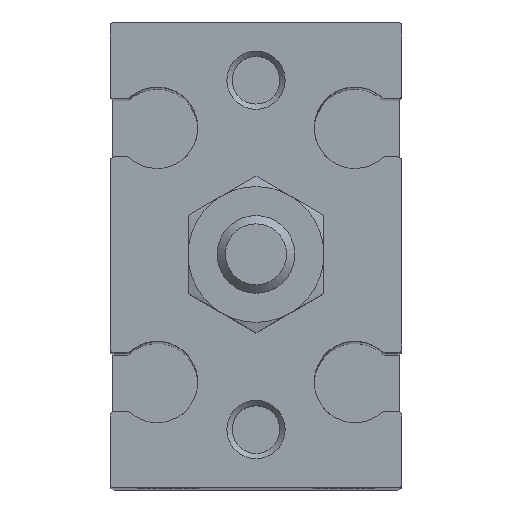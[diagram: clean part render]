
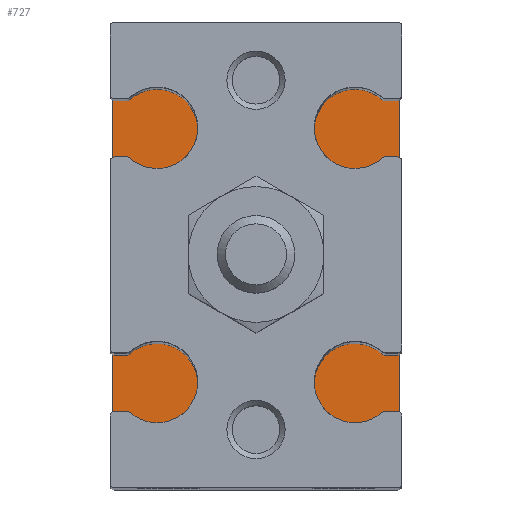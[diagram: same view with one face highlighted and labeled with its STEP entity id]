
A CAD part, top view. The second image highlights one B-rep face of the part: STEP entity #727.
In plain terms, the highlighted planar face has unit normal (0, 0, 1) as drawn and (0, 0, -1) by its records, which use the part's own axes.
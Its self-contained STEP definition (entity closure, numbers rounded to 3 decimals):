
#727 = ADVANCED_FACE( '', ( #1517, #1518, #1519, #1520 ), #1521, .F. );
#1517 = FACE_BOUND( '', #2349, .T. );
#1518 = FACE_BOUND( '', #2350, .T. );
#1519 = FACE_BOUND( '', #2351, .T. );
#1520 = FACE_OUTER_BOUND( '', #2352, .T. );
#1521 = PLANE( '', #2353 );
#2349 = EDGE_LOOP( '', ( #4148 ) );
#2350 = EDGE_LOOP( '', ( #4149 ) );
#2351 = EDGE_LOOP( '', ( #4150 ) );
#2352 = EDGE_LOOP( '', ( #4151, #4152, #4153, #4154 ) );
#2353 = AXIS2_PLACEMENT_3D( '', #4155, #4156, #4157 );
#4148 = ORIENTED_EDGE( '', *, *, #4693, .F. );
#4149 = ORIENTED_EDGE( '', *, *, #5298, .F. );
#4150 = ORIENTED_EDGE( '', *, *, #4944, .T. );
#4151 = ORIENTED_EDGE( '', *, *, #5299, .F. );
#4152 = ORIENTED_EDGE( '', *, *, #4891, .F. );
#4153 = ORIENTED_EDGE( '', *, *, #4731, .F. );
#4154 = ORIENTED_EDGE( '', *, *, #4989, .F. );
#4155 = CARTESIAN_POINT( '', ( 0., 0., -6. ) );
#4156 = DIRECTION( '', ( 0., 0., 1. ) );
#4157 = DIRECTION( '', ( 1., 0., 0. ) );
#4693 = EDGE_CURVE( '', #5554, #5554, #5555, .T. );
#4731 = EDGE_CURVE( '', #5619, #5621, #5622, .T. );
#4891 = EDGE_CURVE( '', #5621, #5892, #5893, .T. );
#4944 = EDGE_CURVE( '', #5969, #5969, #5970, .T. );
#4989 = EDGE_CURVE( '', #6037, #5619, #6039, .T. );
#5298 = EDGE_CURVE( '', #6438, #6438, #6439, .T. );
#5299 = EDGE_CURVE( '', #5892, #6037, #6440, .T. );
#5554 = VERTEX_POINT( '', #7008 );
#5555 = CIRCLE( '', #7009, 1.5 );
#5619 = VERTEX_POINT( '', #7104 );
#5621 = VERTEX_POINT( '', #7107 );
#5622 = LINE( '', #7108, #7109 );
#5892 = VERTEX_POINT( '', #7665 );
#5893 = LINE( '', #7666, #7667 );
#5969 = VERTEX_POINT( '', #7827 );
#5970 = CIRCLE( '', #7828, 2. );
#6037 = VERTEX_POINT( '', #8084 );
#6039 = LINE( '', #8087, #8088 );
#6438 = VERTEX_POINT( '', #8875 );
#6439 = CIRCLE( '', #8876, 1.5 );
#6440 = LINE( '', #8877, #8878 );
#7008 = CARTESIAN_POINT( '', ( -1.5, -9., -6. ) );
#7009 = AXIS2_PLACEMENT_3D( '', #9102, #9103, #9104 );
#7104 = CARTESIAN_POINT( '', ( -7.4, -11.85, -6. ) );
#7107 = CARTESIAN_POINT( '', ( 7.4, -11.85, -6. ) );
#7108 = CARTESIAN_POINT( '', ( -7.4, -11.85, -6. ) );
#7109 = VECTOR( '', #9143, 1000. );
#7665 = CARTESIAN_POINT( '', ( 7.4, 11.85, -6. ) );
#7666 = CARTESIAN_POINT( '', ( 7.4, -11.85, -6. ) );
#7667 = VECTOR( '', #9296, 1000. );
#7827 = CARTESIAN_POINT( '', ( 2., 0., -6. ) );
#7828 = AXIS2_PLACEMENT_3D( '', #9346, #9347, #9348 );
#8084 = CARTESIAN_POINT( '', ( -7.4, 11.85, -6. ) );
#8087 = CARTESIAN_POINT( '', ( -7.4, 11.85, -6. ) );
#8088 = VECTOR( '', #9371, 1000. );
#8875 = CARTESIAN_POINT( '', ( -1.5, 9., -6. ) );
#8876 = AXIS2_PLACEMENT_3D( '', #9670, #9671, #9672 );
#8877 = CARTESIAN_POINT( '', ( 7.4, 11.85, -6. ) );
#8878 = VECTOR( '', #9673, 1000. );
#9102 = CARTESIAN_POINT( '', ( 0., -9., -6. ) );
#9103 = DIRECTION( '', ( 0., 0., -1. ) );
#9104 = DIRECTION( '', ( -1., 0., 0. ) );
#9143 = DIRECTION( '', ( 1., 0., 0. ) );
#9296 = DIRECTION( '', ( 0., 1., 0. ) );
#9346 = CARTESIAN_POINT( '', ( 0., 0., -6. ) );
#9347 = DIRECTION( '', ( 0., 0., 1. ) );
#9348 = DIRECTION( '', ( 1., 0., 0. ) );
#9371 = DIRECTION( '', ( 0., -1., 0. ) );
#9670 = CARTESIAN_POINT( '', ( 0., 9., -6. ) );
#9671 = DIRECTION( '', ( 0., 0., -1. ) );
#9672 = DIRECTION( '', ( -1., 0., 0. ) );
#9673 = DIRECTION( '', ( -1., 0., 0. ) );
